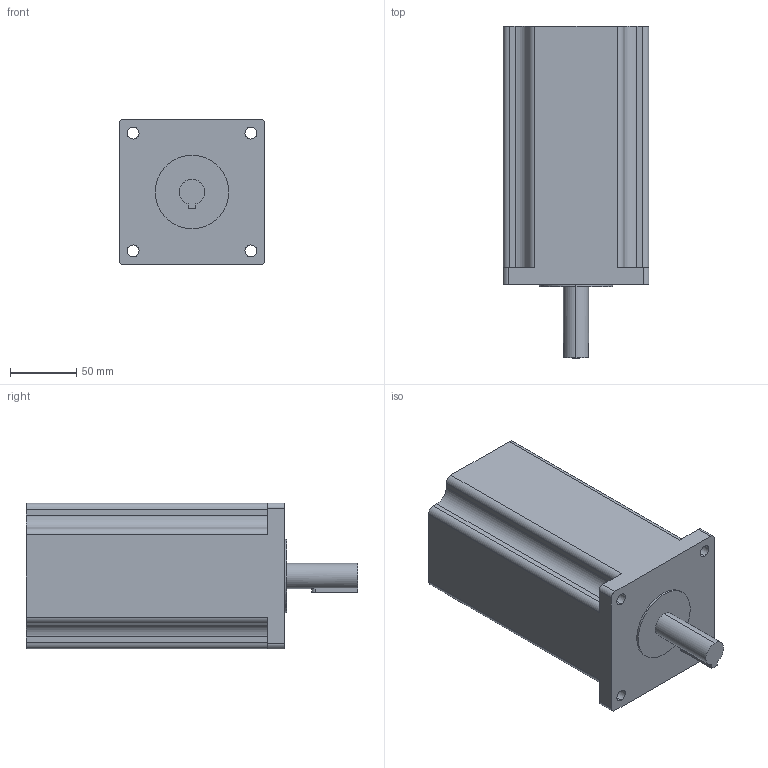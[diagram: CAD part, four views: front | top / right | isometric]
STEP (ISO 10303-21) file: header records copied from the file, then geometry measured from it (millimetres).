
FILE_DESCRIPTION (( 'STEP AP203' ), '1' );
FILE_NAME ('110A20-Z.STEP', '2023-02-20T06:41:32', ( '' ), ( '' ), 'SwSTEP 2.0', 'SolidWorks 2020', '' );
FILE_SCHEMA (( 'CONFIG_CONTROL_DESIGN' ));
Length unit declared in the file: millimetre
Products named in the file (1): 110A20-Z
Bounding box: 110 x 250.37 x 110 mm (x, y, z)
Volume: 2120615.2 mm3; surface area: 108343.8 mm2
Topology: 1 solids, 1 shells, 52 faces, 144 edges, 96 vertices
Faces by surface type: cylinder 29, plane 23
Entity records: 1871 total; most frequent: CARTESIAN_POINT 390, DIRECTION 305, ORIENTED_EDGE 288, EDGE_CURVE 144, AXIS2_PLACEMENT_3D 110, VERTEX_POINT 96, LINE 85, VECTOR 85
